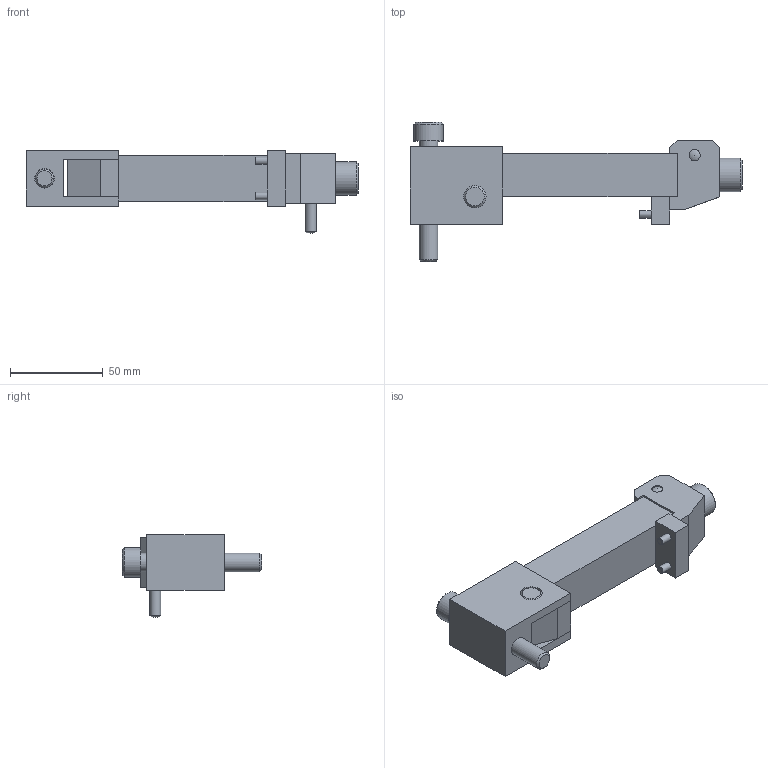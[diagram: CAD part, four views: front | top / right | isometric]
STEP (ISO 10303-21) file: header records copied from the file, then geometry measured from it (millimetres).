
FILE_DESCRIPTION(/* description */ ('STEP AP214'),/* implementation_level */ '2;1');
FILE_NAME(/* name */ 'KL12090',/* time_stamp */ '2024-12-19T07:59:25+01:00',/* author */ ('License CC BY-ND 4.0'),/* organization */ ('CADENAS'),/* preprocessor_version */ 'ST-DEVELOPER v19.3',/* originating_system */ 'PARTsolutions',/* authorisation */ ' ');
FILE_SCHEMA (('AUTOMOTIVE_DESIGN {1 0 10303 214 3 1 1}'));
Length unit declared in the file: millimetre
Products named in the file (11): KL12090; KL120901; KL120902; KL120903; KL120904; KL120905; KL120906; KL120907; KL120908; KL120909; KL1209010
Assembly tree (11 placements, depth 2):
  KL12090
    KL120901
    KL120902
    KL120903
    KL120904
    KL120905
    KL120906
    KL120907
    KL120908
    KL120909  x2
    KL1209010
Bounding box: 179 x 75 x 44.7 mm (x, y, z)
Volume: 140215.7 mm3; surface area: 46687 mm2
Topology: 11 solids, 11 shells, 135 faces, 300 edges, 196 vertices
Faces by surface type: plane 95, cylinder 23, cone 15, sphere 2
Full cylindrical faces by diameter (mm): 4 x2, 4.134 x1, 4.3 x2, 5 x1, 6 x2, 7 x2, 8 x2, 10 x1, 10.106 x1, 10.5 x1, 12 x5, 13 x1, 16 x1, 18 x1
Entity records: 3416 total; most frequent: CARTESIAN_POINT 546, DIRECTION 544, ORIENTED_EDGE 452, EDGE_CURVE 226, AXIS2_PLACEMENT_3D 186, FACE_BOUND 183, EDGE_LOOP 182, LINE 172
